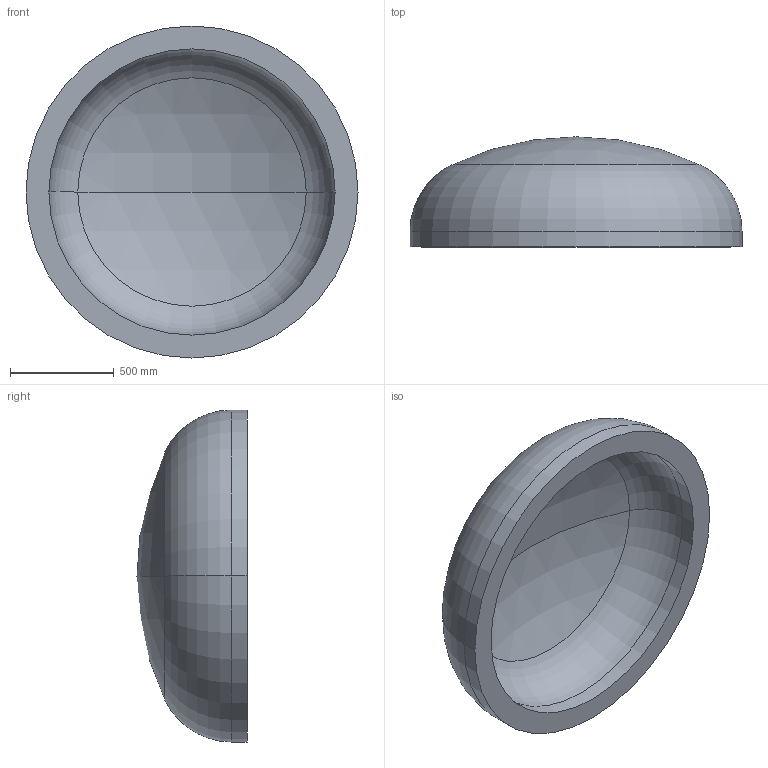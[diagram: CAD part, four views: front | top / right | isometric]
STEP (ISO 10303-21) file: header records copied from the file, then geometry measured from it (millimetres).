
FILE_DESCRIPTION (( 'STEP AP203' ), '1' );
FILE_NAME ('DIN 28013 Korbbogenform_-_Boden DIN 28013 - 1600 x 75 - I - s=110.step', '2016-07-01T11:31:39', ( '' ), ( '' ), 'SwSTEP 2.0', 'SolidWorks 2013', '' );
FILE_SCHEMA (( 'CONFIG_CONTROL_DESIGN' ));
Length unit declared in the file: millimetre
Products named in the file (1): DIN 28013 Korbbogenform_-_Boden DIN 28013 - 1600 x 75 - I - s=110
Bounding box: 1600 x 530.55 x 1600 mm (x, y, z)
Volume: 319068421.5 mm3; surface area: 6341491.9 mm2
Topology: 1 solids, 1 shells, 13 faces, 24 edges, 14 vertices
Faces by surface type: torus 4, cylinder 4, sphere 4, plane 1
Entity records: 407 total; most frequent: DIRECTION 72, CARTESIAN_POINT 52, ORIENTED_EDGE 48, AXIS2_PLACEMENT_3D 34, EDGE_CURVE 24, CIRCLE 20, VERTEX_POINT 14, EDGE_LOOP 14
